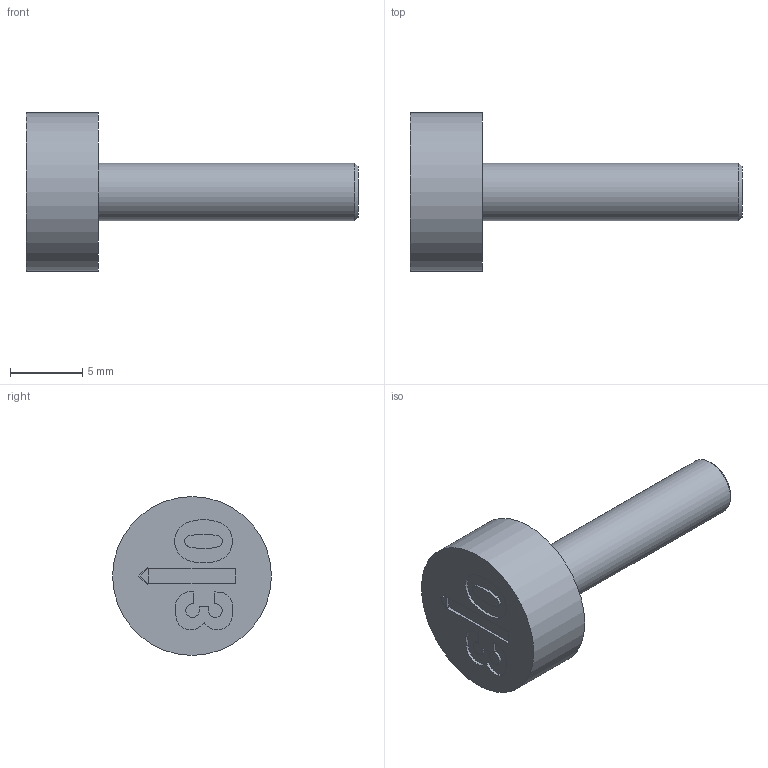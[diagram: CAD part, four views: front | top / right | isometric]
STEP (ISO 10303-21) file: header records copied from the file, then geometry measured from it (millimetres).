
FILE_DESCRIPTION( ( 'STEP AP203' ), ' ' );
FILE_NAME( 'p:/temp/worker_125/4680_3068/app_81_12017012509045691714470260eae72_000000_00_00_000000/format_0/YAS 20.stp', '2017-01-25T08:04:57', ( '' ), ( '' ), ' ', 'PARTsolutions', ' ' );
FILE_SCHEMA( ( 'CONFIG_CONTROL_DESIGN' ) );
Length unit declared in the file: millimetre
Products named in the file (1): _YAS 201
Bounding box: 23 x 11 x 11 mm (x, y, z)
Volume: 697.1 mm3; surface area: 598.6 mm2
Topology: 1 solids, 1 shells, 46 faces, 113 edges, 75 vertices
Faces by surface type: plane 29, cylinder 16, cone 1
Full cylindrical faces by diameter (mm): 4 x1, 11 x1
Entity records: 1391 total; most frequent: DIRECTION 237, CARTESIAN_POINT 232, ORIENTED_EDGE 220, EDGE_CURVE 110, AXIS2_PLACEMENT_3D 80, LINE 77, VECTOR 77, VERTEX_POINT 75
